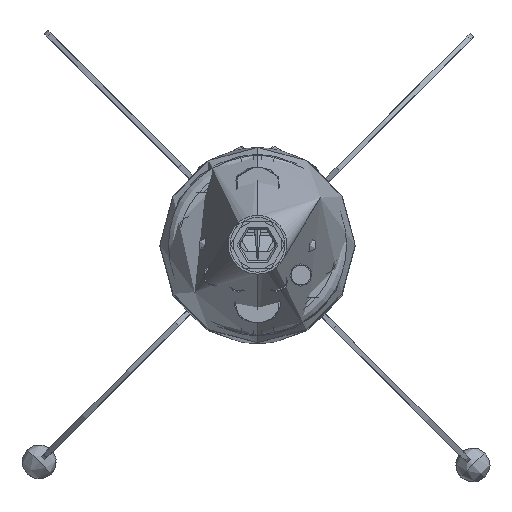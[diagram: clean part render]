
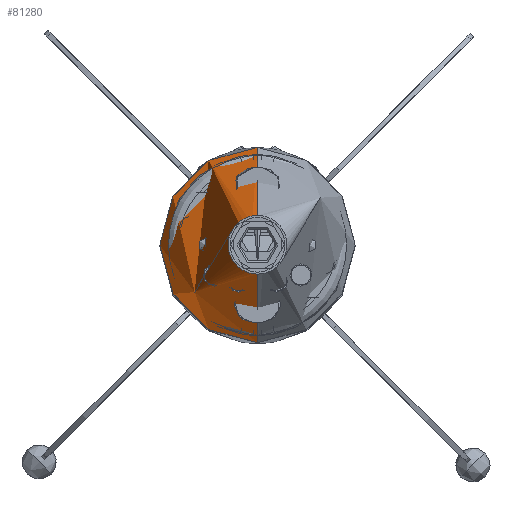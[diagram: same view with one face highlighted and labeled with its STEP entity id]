
A CAD part, top view. The second image highlights one B-rep face of the part: STEP entity #81280.
In plain terms, the highlighted free-form (B-spline) face has degree [2, 3] with [3, 4] control points.
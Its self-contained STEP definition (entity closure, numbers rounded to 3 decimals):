
#268 = CARTESIAN_POINT ( 'NONE',  ( -50., -25., 270. ) ) ;
#5740 = CIRCLE ( 'NONE', #72873, 83.185 ) ;
#8770 = CARTESIAN_POINT ( 'NONE',  ( 0., -83.185, 130. ) ) ;
#9131 = CARTESIAN_POINT ( 'NONE',  ( 0., 25., 270. ) ) ;
#10099 = CARTESIAN_POINT ( 'NONE',  ( 0., 83.185, 221.177 ) ) ;
#11038 = VERTEX_POINT ( 'NONE', #109658 ) ;
#13696 = VERTEX_POINT ( 'NONE', #71234 ) ;
#15309 = CARTESIAN_POINT ( 'NONE',  ( 0., 83.185, 130. ) ) ;
#17602 = CARTESIAN_POINT ( 'NONE',  ( -166.37, -83.185, 130. ) ) ;
#24700 = ORIENTED_EDGE ( 'NONE', *, *, #97559, .F. ) ;
#25085 = VERTEX_POINT ( 'NONE', #40105 ) ;
#25140 = EDGE_CURVE ( 'NONE', #13696, #51560, #31945, .T. ) ;
#25974 = CARTESIAN_POINT ( 'NONE',  ( 0., 0., 130. ) ) ;
#26445 = CARTESIAN_POINT ( 'NONE',  ( -166.37, 83.185, 130. ) ) ;
#26681 = CARTESIAN_POINT ( 'NONE',  ( 0., -25., 270. ) ) ;
#31592 = CARTESIAN_POINT ( 'NONE',  ( 0., 0., 270. ) ) ;
#31945 = CIRCLE ( 'NONE', #104708, 83.185 ) ;
#34765 = DIRECTION ( 'NONE',  ( -1., 0., 0. ) ) ;
#35233 = CARTESIAN_POINT ( 'NONE',  ( 0., -83.185, 221.177 ) ) ;
#38341 = CARTESIAN_POINT ( 'NONE',  ( 0., 0., 130. ) ) ;
#40105 = CARTESIAN_POINT ( 'NONE',  ( 0., -25., 270. ) ) ;
#40401 = DIRECTION ( 'NONE',  ( -1., 0., 0. ) ) ;
#44076 = CARTESIAN_POINT ( 'NONE',  ( -166.37, 83.185, 221.177 ) ) ;
#45052 = CARTESIAN_POINT ( 'NONE',  ( 0., 83.185, 130. ) ) ;
#47166 = DIRECTION ( 'NONE',  ( -1., 0., 0. ) ) ;
#51560 = VERTEX_POINT ( 'NONE', #15309 ) ;
#52777 = CARTESIAN_POINT ( 'NONE',  ( 0., -83.185, 221.177 ) ) ;
#52920 = CARTESIAN_POINT ( 'NONE',  ( 0., -25., 270. ) ) ;
#54261 = CARTESIAN_POINT ( 'NONE',  ( 0., 25., 270. ) ) ;
#59811 = ORIENTED_EDGE ( 'NONE', *, *, #113112, .F. ) ;
#61777 = CARTESIAN_POINT ( 'NONE',  ( -50., 25., 270. ) ) ;
#65499 = ORIENTED_EDGE ( 'NONE', *, *, #25140, .F. ) ;
#68524 =( BOUNDED_CURVE ( )  B_SPLINE_CURVE ( 2, ( #45052, #10099, #54261 ),
 .UNSPECIFIED., .F., .F. ) 
 B_SPLINE_CURVE_WITH_KNOTS ( ( 3, 3 ),
 ( 0., 1. ),
 .UNSPECIFIED. ) 
 CURVE ( )  GEOMETRIC_REPRESENTATION_ITEM ( )  RATIONAL_B_SPLINE_CURVE ( ( 1., 0.798, 1. ) ) 
 REPRESENTATION_ITEM ( '' )  );
#69189 = AXIS2_PLACEMENT_3D ( 'NONE', #31592, #93006, #40401 ) ;
#70118 = CARTESIAN_POINT ( 'NONE',  ( 0., -83.185, 130. ) ) ;
#71234 = CARTESIAN_POINT ( 'NONE',  ( -83.185, 0., 130. ) ) ;
#72873 = AXIS2_PLACEMENT_3D ( 'NONE', #38341, #99755, #47166 ) ;
#75129 = ORIENTED_EDGE ( 'NONE', *, *, #83290, .T. ) ;
#76728 = ORIENTED_EDGE ( 'NONE', *, *, #97224, .T. ) ;
#76929 = CARTESIAN_POINT ( 'NONE',  ( 0., -83.185, 130. ) ) ;
#79263 =( BOUNDED_CURVE ( )  B_SPLINE_CURVE ( 2, ( #70118, #52777, #26681 ),
 .UNSPECIFIED., .F., .F. ) 
 B_SPLINE_CURVE_WITH_KNOTS ( ( 3, 3 ),
 ( 0., 1. ),
 .UNSPECIFIED. ) 
 CURVE ( )  GEOMETRIC_REPRESENTATION_ITEM ( )  RATIONAL_B_SPLINE_CURVE ( ( 1., 0.798, 1. ) ) 
 REPRESENTATION_ITEM ( '' )  );
#81280 = ADVANCED_FACE ( 'NONE', ( #101244 ), #92602, .T. ) ;
#83290 = EDGE_CURVE ( 'NONE', #84127, #25085, #79263, .T. ) ;
#84127 = VERTEX_POINT ( 'NONE', #76929 ) ;
#87391 = DIRECTION ( 'NONE',  ( 0., 0., -1. ) ) ;
#87871 = CARTESIAN_POINT ( 'NONE',  ( 0., 83.185, 130. ) ) ;
#92602 =( BOUNDED_SURFACE ( )  B_SPLINE_SURFACE ( 2, 3, ( 
 ( #8770, #17602, #26445, #87871 ),
 ( #35233, #96683, #44076, #105479 ),
 ( #52920, #268, #61777, #9131 ) ),
 .UNSPECIFIED., .F., .F., .F. ) 
 B_SPLINE_SURFACE_WITH_KNOTS ( ( 3, 3 ),
 ( 4, 4 ),
 ( 0., 1. ),
 ( 0., 1. ),
 .UNSPECIFIED. ) 
 GEOMETRIC_REPRESENTATION_ITEM ( )  RATIONAL_B_SPLINE_SURFACE ( (
 ( 1., 0.333, 0.333, 1.),
 ( 0.798, 0.266, 0.266, 0.798),
 ( 1., 0.333, 0.333, 1.) ) ) 
 REPRESENTATION_ITEM ( '' )  SURFACE ( )  );
#93006 = DIRECTION ( 'NONE',  ( 0., 0., -1. ) ) ;
#96683 = CARTESIAN_POINT ( 'NONE',  ( -166.37, -83.185, 221.177 ) ) ;
#97224 = EDGE_CURVE ( 'NONE', #25085, #11038, #112990, .T. ) ;
#97559 = EDGE_CURVE ( 'NONE', #84127, #13696, #5740, .T. ) ;
#99755 = DIRECTION ( 'NONE',  ( 0., 0., -1. ) ) ;
#100189 = EDGE_LOOP ( 'NONE', ( #24700, #75129, #76728, #59811, #65499 ) ) ;
#101244 = FACE_OUTER_BOUND ( 'NONE', #100189, .T. ) ;
#104708 = AXIS2_PLACEMENT_3D ( 'NONE', #25974, #87391, #34765 ) ;
#105479 = CARTESIAN_POINT ( 'NONE',  ( 0., 83.185, 221.177 ) ) ;
#109658 = CARTESIAN_POINT ( 'NONE',  ( 0., 25., 270. ) ) ;
#112990 = CIRCLE ( 'NONE', #69189, 25. ) ;
#113112 = EDGE_CURVE ( 'NONE', #51560, #11038, #68524, .T. ) ;
